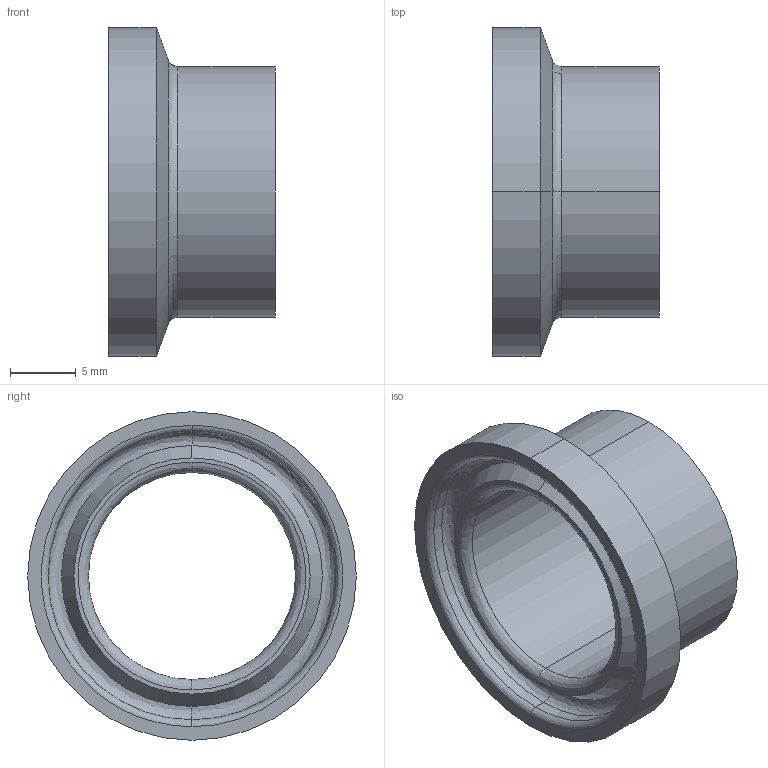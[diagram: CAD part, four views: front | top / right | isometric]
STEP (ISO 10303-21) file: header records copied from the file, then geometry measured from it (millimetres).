
FILE_DESCRIPTION (( 'STEP AP214' ), '1' );
FILE_NAME ('TEG2CS6L.75.STEP', '2016-05-22T11:55:46', ( 'eran' ), ( '' ), 'SwSTEP 2.0', 'SolidWorks 2016', '' );
FILE_SCHEMA (( 'AUTOMOTIVE_DESIGN' ));
Length unit declared in the file: millimetre
Products named in the file (1): TEG2CS6L.75
Bounding box: 12.7 x 24.99 x 24.99 mm (x, y, z)
Volume: 1728 mm3; surface area: 2084.2 mm2
Topology: 1 solids, 1 shells, 23 faces, 46 edges, 26 vertices
Faces by surface type: bspline 8, cylinder 8, cone 4, plane 3
Entity records: 724 total; most frequent: CARTESIAN_POINT 228, DIRECTION 104, ORIENTED_EDGE 92, EDGE_CURVE 46, AXIS2_PLACEMENT_3D 46, CIRCLE 30, VERTEX_POINT 26, EDGE_LOOP 26
